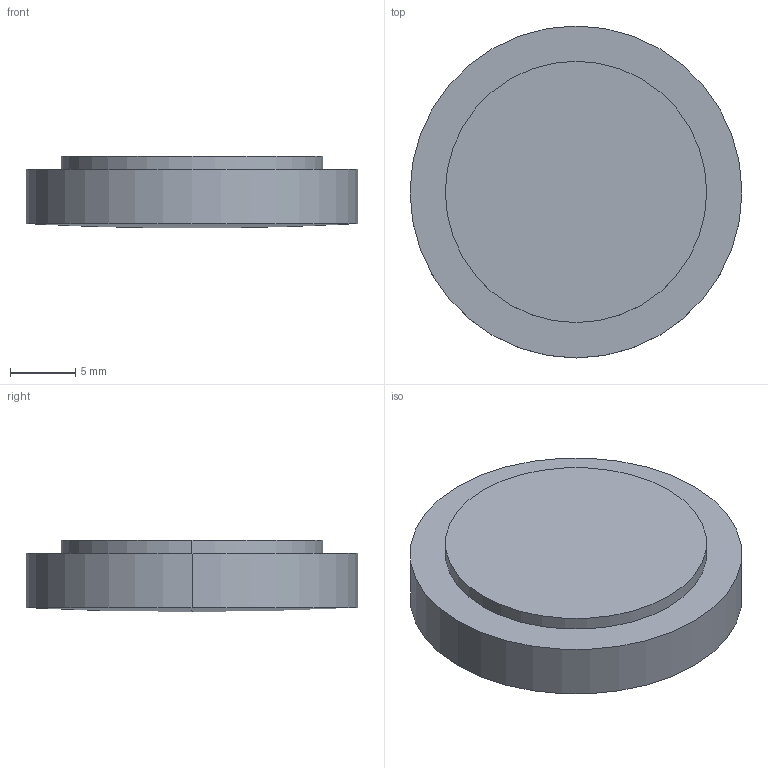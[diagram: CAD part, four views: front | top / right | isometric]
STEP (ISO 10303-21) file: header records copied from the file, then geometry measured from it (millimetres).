
FILE_DESCRIPTION(('STEP AP214'),'1');
FILE_NAME('LLF-25610.STEP','2020-03-09T17:41:27',(' '),(' '),'Spatial InterOp 3D',' ',' ');
FILE_SCHEMA(('AUTOMOTIVE_DESIGN { 1 0 10303 214 1 1 1 1 }'));
Length unit declared in the file: millimetre
Products named in the file (1): 1
Bounding box: 25.4 x 25.4 x 5.5 mm (x, y, z)
Volume: 2511 mm3; surface area: 2037.7 mm2
Topology: 2 solids, 2 shells, 9 faces, 16 edges, 9 vertices
Faces by surface type: cylinder 4, plane 3, sphere 2
Entity records: 229 total; most frequent: DIRECTION 46, CARTESIAN_POINT 34, ORIENTED_EDGE 28, AXIS2_PLACEMENT_3D 21, EDGE_CURVE 14, CIRCLE 10, ADVANCED_FACE 9, FACE_OUTER_BOUND 9
